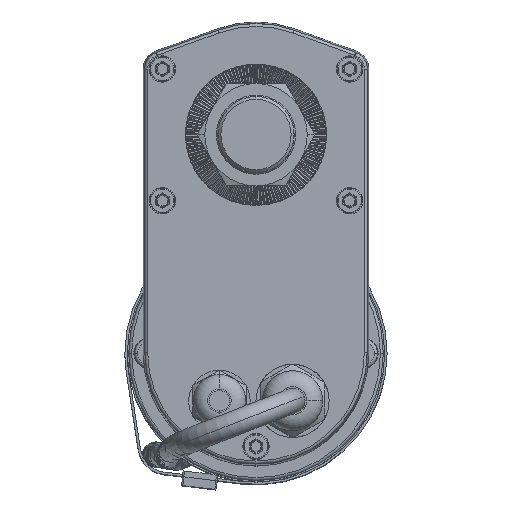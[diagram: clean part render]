
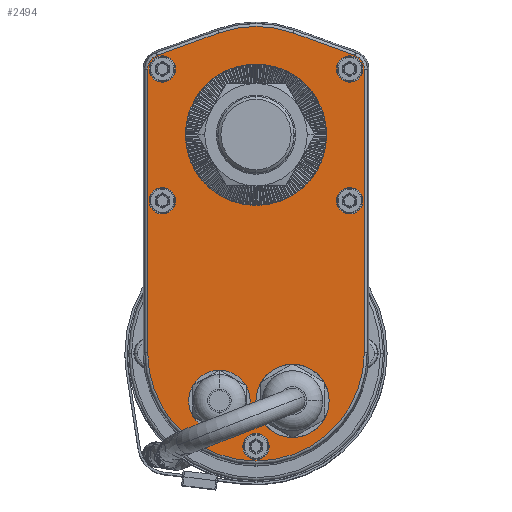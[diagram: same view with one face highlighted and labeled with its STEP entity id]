
A CAD part, top view. The second image highlights one B-rep face of the part: STEP entity #2494.
In plain terms, the highlighted planar face has unit normal (0, 0, 1).
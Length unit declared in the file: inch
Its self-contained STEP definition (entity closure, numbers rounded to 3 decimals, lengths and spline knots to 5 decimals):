
#2494=ADVANCED_FACE('NONE',(#5763,#5764,#5765,#5766,#5767,#5768,#5769,#5770,#5771),#5772,.F.);
#5763=FACE_OUTER_BOUND('',#11398,.T.);
#5764=FACE_BOUND('',#11399,.T.);
#5765=FACE_BOUND('',#11400,.T.);
#5766=FACE_BOUND('',#11401,.T.);
#5767=FACE_BOUND('',#11402,.T.);
#5768=FACE_BOUND('',#11403,.T.);
#5769=FACE_BOUND('',#11404,.T.);
#5770=FACE_BOUND('',#11405,.T.);
#5771=FACE_BOUND('',#11406,.T.);
#5772=PLANE('',#11407);
#11398=EDGE_LOOP('',(#21023,#21024,#21025,#21026,#21027,#21028,#21029,#21030));
#11399=EDGE_LOOP('',(#21031,#21032));
#11400=EDGE_LOOP('',(#21033,#21034));
#11401=EDGE_LOOP('',(#21035,#21036));
#11402=EDGE_LOOP('',(#21037,#21038));
#11403=EDGE_LOOP('',(#21039,#21040));
#11404=EDGE_LOOP('',(#21041,#21042));
#11405=EDGE_LOOP('',(#21043,#21044));
#11406=EDGE_LOOP('',(#21045,#21046));
#11407=AXIS2_PLACEMENT_3D('',#21047,#21048,#21049);
#21023=ORIENTED_EDGE('',*,*,#28990,.T.);
#21024=ORIENTED_EDGE('',*,*,#30636,.T.);
#21025=ORIENTED_EDGE('',*,*,#30169,.T.);
#21026=ORIENTED_EDGE('',*,*,#30002,.T.);
#21027=ORIENTED_EDGE('',*,*,#30528,.T.);
#21028=ORIENTED_EDGE('',*,*,#28712,.T.);
#21029=ORIENTED_EDGE('',*,*,#30637,.T.);
#21030=ORIENTED_EDGE('',*,*,#29368,.T.);
#21031=ORIENTED_EDGE('',*,*,#30638,.F.);
#21032=ORIENTED_EDGE('',*,*,#30639,.F.);
#21033=ORIENTED_EDGE('',*,*,#29167,.F.);
#21034=ORIENTED_EDGE('',*,*,#30301,.F.);
#21035=ORIENTED_EDGE('',*,*,#30640,.F.);
#21036=ORIENTED_EDGE('',*,*,#30641,.F.);
#21037=ORIENTED_EDGE('',*,*,#30110,.F.);
#21038=ORIENTED_EDGE('',*,*,#30605,.F.);
#21039=ORIENTED_EDGE('',*,*,#28407,.F.);
#21040=ORIENTED_EDGE('',*,*,#28800,.F.);
#21041=ORIENTED_EDGE('',*,*,#30642,.F.);
#21042=ORIENTED_EDGE('',*,*,#30643,.F.);
#21043=ORIENTED_EDGE('',*,*,#30644,.F.);
#21044=ORIENTED_EDGE('',*,*,#30645,.F.);
#21045=ORIENTED_EDGE('',*,*,#30646,.F.);
#21046=ORIENTED_EDGE('',*,*,#30647,.F.);
#21047=CARTESIAN_POINT('',(-1.09822,2.41333,28.81693));
#21048=DIRECTION('',(0.0,0.0,-1.0));
#21049=DIRECTION('',(0.0,-1.0,0.0));
#28407=EDGE_CURVE('NONE',#33497,#33492,#33499,.T.);
#28712=EDGE_CURVE('NONE',#34047,#34049,#34051,.T.);
#28800=EDGE_CURVE('NONE',#33492,#33497,#34191,.T.);
#28990=EDGE_CURVE('NONE',#34509,#34514,#34516,.T.);
#29167=EDGE_CURVE('NONE',#34800,#34802,#34803,.T.);
#29368=EDGE_CURVE('NONE',#35123,#34509,#35127,.T.);
#30002=EDGE_CURVE('NONE',#36107,#36105,#36108,.T.);
#30110=EDGE_CURVE('NONE',#36269,#36267,#36271,.T.);
#30169=EDGE_CURVE('NONE',#36359,#36107,#36360,.T.);
#30301=EDGE_CURVE('NONE',#34802,#34800,#36550,.T.);
#30528=EDGE_CURVE('NONE',#36105,#34047,#36859,.T.);
#30605=EDGE_CURVE('NONE',#36267,#36269,#36967,.T.);
#30636=EDGE_CURVE('NONE',#34514,#36359,#37012,.T.);
#30637=EDGE_CURVE('NONE',#34049,#35123,#37013,.T.);
#30638=EDGE_CURVE('NONE',#37014,#37015,#37016,.T.);
#30639=EDGE_CURVE('NONE',#37015,#37014,#37017,.T.);
#30640=EDGE_CURVE('NONE',#37018,#37019,#37020,.T.);
#30641=EDGE_CURVE('NONE',#37019,#37018,#37021,.T.);
#30642=EDGE_CURVE('NONE',#37022,#37023,#37024,.T.);
#30643=EDGE_CURVE('NONE',#37023,#37022,#37025,.T.);
#30644=EDGE_CURVE('NONE',#37026,#37027,#37028,.T.);
#30645=EDGE_CURVE('NONE',#37027,#37026,#37029,.T.);
#30646=EDGE_CURVE('NONE',#37030,#37031,#37032,.T.);
#30647=EDGE_CURVE('NONE',#37031,#37030,#37033,.T.);
#33492=VERTEX_POINT('',#41213);
#33497=VERTEX_POINT('NONE',#41219);
#33499=CIRCLE('',#41222,0.17717);
#34047=VERTEX_POINT('NONE',#43341);
#34049=VERTEX_POINT('NONE',#43343);
#34051=CIRCLE('',#43345,1.45738);
#34191=CIRCLE('',#43612,0.17717);
#34509=VERTEX_POINT('NONE',#44350);
#34514=VERTEX_POINT('NONE',#44356);
#34516=LINE('',#44358,#44359);
#34800=VERTEX_POINT('NONE',#44951);
#34802=VERTEX_POINT('',#44954);
#34803=CIRCLE('',#44955,0.43307);
#35123=VERTEX_POINT('NONE',#45677);
#35127=CIRCLE('',#45681,0.19754);
#36105=VERTEX_POINT('NONE',#47955);
#36107=VERTEX_POINT('NONE',#47957);
#36108=CIRCLE('',#47958,0.19754);
#36267=VERTEX_POINT('',#48309);
#36269=VERTEX_POINT('NONE',#48312);
#36271=CIRCLE('',#48315,0.17717);
#36359=VERTEX_POINT('NONE',#48581);
#36360=LINE('',#48582,#48583);
#36550=CIRCLE('',#48957,0.43307);
#36859=LINE('',#49645,#49646);
#36967=CIRCLE('',#49867,0.17717);
#37012=CIRCLE('',#49947,1.45718);
#37013=LINE('',#49948,#49949);
#37014=VERTEX_POINT('NONE',#49950);
#37015=VERTEX_POINT('',#49951);
#37016=CIRCLE('',#49952,0.3248);
#37017=CIRCLE('',#49953,0.3248);
#37018=VERTEX_POINT('NONE',#49954);
#37019=VERTEX_POINT('',#49955);
#37020=CIRCLE('',#49956,0.94882);
#37021=CIRCLE('',#49957,0.94882);
#37022=VERTEX_POINT('NONE',#49958);
#37023=VERTEX_POINT('',#49959);
#37024=CIRCLE('',#49960,0.17717);
#37025=CIRCLE('',#49961,0.17717);
#37026=VERTEX_POINT('NONE',#49962);
#37027=VERTEX_POINT('',#49963);
#37028=CIRCLE('',#49964,0.17717);
#37029=CIRCLE('',#49965,0.17717);
#37030=VERTEX_POINT('NONE',#49966);
#37031=VERTEX_POINT('',#49967);
#37032=CIRCLE('',#49968,0.17717);
#37033=CIRCLE('',#49969,0.17717);
#41213=CARTESIAN_POINT('',(0.33878,1.52593,28.81693));
#41219=CARTESIAN_POINT('',(-0.01555,1.52593,28.81693));
#41222=AXIS2_PLACEMENT_3D('',#56519,#56520,#56521);
#43341=CARTESIAN_POINT('',(-0.60273,3.78389,28.81693));
#43343=CARTESIAN_POINT('',(-1.59372,3.78389,28.81693));
#43345=AXIS2_PLACEMENT_3D('',#56740,#56741,#56742);
#43612=AXIS2_PLACEMENT_3D('',#56839,#56840,#56841);
#44350=CARTESIAN_POINT('',(-2.55541,3.29758,28.81693));
#44356=CARTESIAN_POINT('',(-2.55541,-0.51954,28.81693));
#44358=CARTESIAN_POINT('',(-2.55541,-0.51954,28.81693));
#44359=VECTOR('',#57064,39.37008);
#44951=CARTESIAN_POINT('',(-1.03917,-1.16801,28.81693));
#44954=CARTESIAN_POINT('',(-0.17303,-1.16801,28.81693));
#44955=AXIS2_PLACEMENT_3D('',#57270,#57271,#57272);
#45677=CARTESIAN_POINT('',(-2.42503,3.48335,28.81693));
#45681=AXIS2_PLACEMENT_3D('',#57482,#57483,#57484);
#47955=CARTESIAN_POINT('',(0.22858,3.48335,28.81693));
#47957=CARTESIAN_POINT('',(0.35896,3.29758,28.81693));
#47958=AXIS2_PLACEMENT_3D('',#58134,#58135,#58136);
#48309=CARTESIAN_POINT('',(0.33878,3.29758,28.81693));
#48312=CARTESIAN_POINT('',(-0.01555,3.29758,28.81693));
#48315=AXIS2_PLACEMENT_3D('',#58254,#58255,#58256);
#48581=CARTESIAN_POINT('',(0.35896,-0.51954,28.81693));
#48582=CARTESIAN_POINT('',(0.35896,3.29758,28.81693));
#48583=VECTOR('',#58307,39.37008);
#48957=AXIS2_PLACEMENT_3D('',#58486,#58487,#58488);
#49645=CARTESIAN_POINT('',(-0.60273,3.78389,28.81693));
#49646=VECTOR('',#58743,39.37008);
#49867=AXIS2_PLACEMENT_3D('',#58819,#58820,#58821);
#49947=AXIS2_PLACEMENT_3D('',#58852,#58853,#58854);
#49948=CARTESIAN_POINT('',(-2.42503,3.48335,28.81693));
#49949=VECTOR('',#58855,39.37008);
#49950=CARTESIAN_POINT('',(-1.91515,-1.16801,28.81693));
#49951=CARTESIAN_POINT('',(-1.26555,-1.16801,28.81693));
#49952=AXIS2_PLACEMENT_3D('',#58856,#58857,#58858);
#49953=AXIS2_PLACEMENT_3D('',#58859,#58860,#58861);
#49954=CARTESIAN_POINT('',(-2.04704,2.41333,28.81693));
#49955=CARTESIAN_POINT('',(-0.14941,2.41333,28.81693));
#49956=AXIS2_PLACEMENT_3D('',#58862,#58863,#58864);
#49957=AXIS2_PLACEMENT_3D('',#58865,#58866,#58867);
#49958=CARTESIAN_POINT('',(-0.92106,-1.78116,28.81693));
#49959=CARTESIAN_POINT('',(-1.27539,-1.78116,28.81693));
#49960=AXIS2_PLACEMENT_3D('',#58868,#58869,#58870);
#49961=AXIS2_PLACEMENT_3D('',#58871,#58872,#58873);
#49962=CARTESIAN_POINT('',(-2.1809,1.52593,28.81693));
#49963=CARTESIAN_POINT('',(-2.53523,1.52593,28.81693));
#49964=AXIS2_PLACEMENT_3D('',#58874,#58875,#58876);
#49965=AXIS2_PLACEMENT_3D('',#58877,#58878,#58879);
#49966=CARTESIAN_POINT('',(-2.1809,3.29758,28.81693));
#49967=CARTESIAN_POINT('',(-2.53523,3.29758,28.81693));
#49968=AXIS2_PLACEMENT_3D('',#58880,#58881,#58882);
#49969=AXIS2_PLACEMENT_3D('',#58883,#58884,#58885);
#56519=CARTESIAN_POINT('',(0.16162,1.52593,28.81693));
#56520=DIRECTION('',(0.0,0.0,1.0));
#56521=DIRECTION('',(-1.0,0.0,0.0));
#56740=CARTESIAN_POINT('',(-1.09822,2.41333,28.81693));
#56741=DIRECTION('',(0.0,0.0,1.0));
#56742=DIRECTION('',(-1.0,0.,0.0));
#56839=CARTESIAN_POINT('',(0.16162,1.52593,28.81693));
#56840=DIRECTION('',(0.0,0.0,1.0));
#56841=DIRECTION('',(-1.0,0.0,0.0));
#57064=DIRECTION('',(0.,-1.0,-0.0));
#57270=CARTESIAN_POINT('',(-0.6061,-1.16801,28.81693));
#57271=DIRECTION('',(0.0,0.0,1.0));
#57272=DIRECTION('',(-1.0,0.0,0.0));
#57482=CARTESIAN_POINT('',(-2.35787,3.29758,28.81693));
#57483=DIRECTION('',(0.0,0.0,1.0));
#57484=DIRECTION('',(-1.0,0.0,0.0));
#58134=CARTESIAN_POINT('',(0.16142,3.29758,28.81693));
#58135=DIRECTION('',(0.0,0.0,1.0));
#58136=DIRECTION('',(-1.0,0.,0.0));
#58254=CARTESIAN_POINT('',(0.16162,3.29758,28.81693));
#58255=DIRECTION('',(0.0,0.0,1.0));
#58256=DIRECTION('',(-1.0,0.0,0.0));
#58307=DIRECTION('',(0.,1.0,0.0));
#58486=CARTESIAN_POINT('',(-0.6061,-1.16801,28.81693));
#58487=DIRECTION('',(0.0,0.0,1.0));
#58488=DIRECTION('',(-1.0,0.0,0.0));
#58743=DIRECTION('',(-0.94,0.34,0.0));
#58819=CARTESIAN_POINT('',(0.16162,3.29758,28.81693));
#58820=DIRECTION('',(0.0,0.0,1.0));
#58821=DIRECTION('',(-1.0,0.0,0.0));
#58852=CARTESIAN_POINT('',(-1.09822,-0.51954,28.81693));
#58853=DIRECTION('',(0.0,0.0,1.0));
#58854=DIRECTION('',(-1.0,0.0,0.0));
#58855=DIRECTION('',(-0.94,-0.34,-0.0));
#58856=CARTESIAN_POINT('',(-1.59035,-1.16801,28.81693));
#58857=DIRECTION('',(0.0,0.0,1.0));
#58858=DIRECTION('',(-1.0,0.0,0.0));
#58859=CARTESIAN_POINT('',(-1.59035,-1.16801,28.81693));
#58860=DIRECTION('',(0.0,0.0,1.0));
#58861=DIRECTION('',(-1.0,0.0,0.0));
#58862=CARTESIAN_POINT('',(-1.09822,2.41333,28.81693));
#58863=DIRECTION('',(0.0,0.0,1.0));
#58864=DIRECTION('',(-1.0,0.0,0.0));
#58865=CARTESIAN_POINT('',(-1.09822,2.41333,28.81693));
#58866=DIRECTION('',(0.0,0.0,1.0));
#58867=DIRECTION('',(-1.0,0.0,0.0));
#58868=CARTESIAN_POINT('',(-1.09822,-1.78116,28.81693));
#58869=DIRECTION('',(0.0,0.0,1.0));
#58870=DIRECTION('',(1.0,0.0,0.0));
#58871=CARTESIAN_POINT('',(-1.09822,-1.78116,28.81693));
#58872=DIRECTION('',(0.0,0.0,1.0));
#58873=DIRECTION('',(1.0,0.0,0.0));
#58874=CARTESIAN_POINT('',(-2.35807,1.52593,28.81693));
#58875=DIRECTION('',(0.0,0.0,1.0));
#58876=DIRECTION('',(1.0,0.0,0.0));
#58877=CARTESIAN_POINT('',(-2.35807,1.52593,28.81693));
#58878=DIRECTION('',(0.0,0.0,1.0));
#58879=DIRECTION('',(1.0,0.0,0.0));
#58880=CARTESIAN_POINT('',(-2.35807,3.29758,28.81693));
#58881=DIRECTION('',(0.0,0.0,1.0));
#58882=DIRECTION('',(1.0,0.0,0.0));
#58883=CARTESIAN_POINT('',(-2.35807,3.29758,28.81693));
#58884=DIRECTION('',(0.0,0.0,1.0));
#58885=DIRECTION('',(1.0,0.0,0.0));
